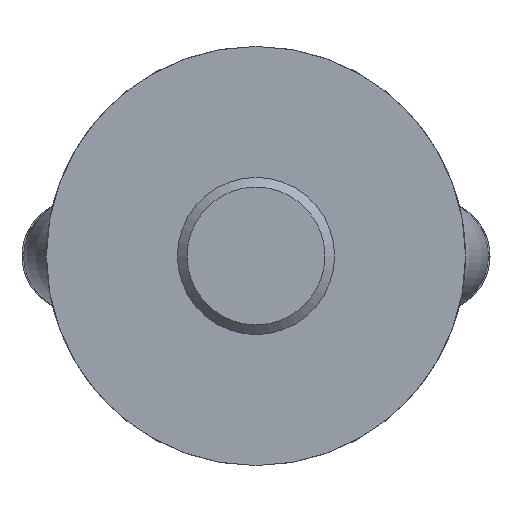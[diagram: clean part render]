
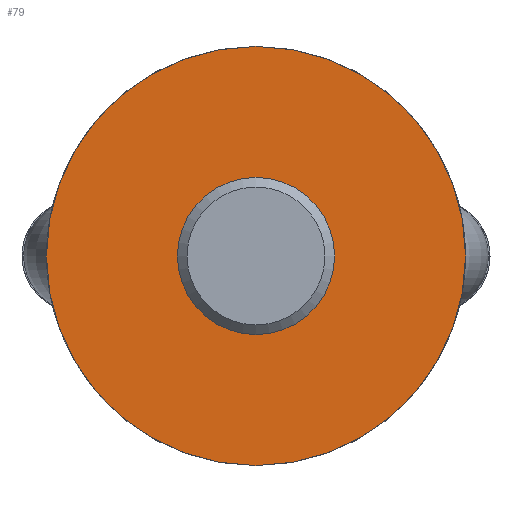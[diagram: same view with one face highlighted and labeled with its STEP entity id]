
A CAD part, front view. The second image highlights one B-rep face of the part: STEP entity #79.
In plain terms, the highlighted planar face has unit normal (0, -1, 0).
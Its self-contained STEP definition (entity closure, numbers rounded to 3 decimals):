
#79 = ADVANCED_FACE( '', ( #115, #116 ), #117, .F. );
#115 = FACE_BOUND( '', #186, .T. );
#116 = FACE_OUTER_BOUND( '', #187, .T. );
#117 = PLANE( '', #188 );
#186 = EDGE_LOOP( '', ( #276 ) );
#187 = EDGE_LOOP( '', ( #277 ) );
#188 = AXIS2_PLACEMENT_3D( '', #278, #279, #280 );
#276 = ORIENTED_EDGE( '', *, *, #464, .T. );
#277 = ORIENTED_EDGE( '', *, *, #465, .T. );
#278 = CARTESIAN_POINT( '', ( 60., 0., 0. ) );
#279 = DIRECTION( '', ( 0., 1., 0. ) );
#280 = DIRECTION( '', ( 0., 0., 1. ) );
#464 = EDGE_CURVE( '', #539, #539, #540, .T. );
#465 = EDGE_CURVE( '', #541, #541, #542, .T. );
#539 = VERTEX_POINT( '', #863 );
#540 = CIRCLE( '', #864, 22.5 );
#541 = VERTEX_POINT( '', #865 );
#542 = CIRCLE( '', #866, 60. );
#863 = CARTESIAN_POINT( '', ( 0., 0., 22.5 ) );
#864 = AXIS2_PLACEMENT_3D( '', #1204, #1205, #1206 );
#865 = CARTESIAN_POINT( '', ( 0., 0., -60. ) );
#866 = AXIS2_PLACEMENT_3D( '', #1207, #1208, #1209 );
#1204 = CARTESIAN_POINT( '', ( 0., 0., 0. ) );
#1205 = DIRECTION( '', ( 0., 1., 0. ) );
#1206 = DIRECTION( '', ( 0., 0., 1. ) );
#1207 = CARTESIAN_POINT( '', ( 0., 0., 0. ) );
#1208 = DIRECTION( '', ( 0., -1., 0. ) );
#1209 = DIRECTION( '', ( 0., 0., -1. ) );
